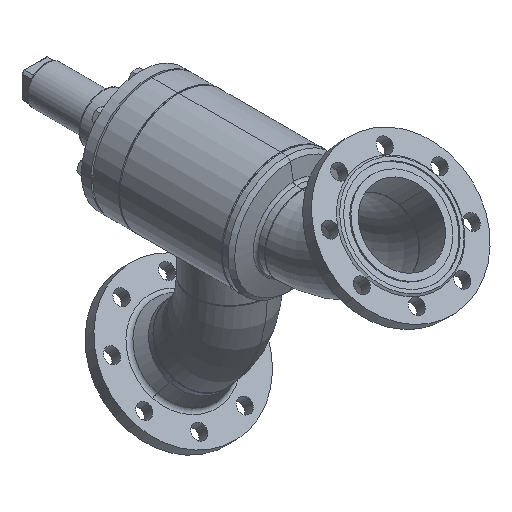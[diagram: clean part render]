
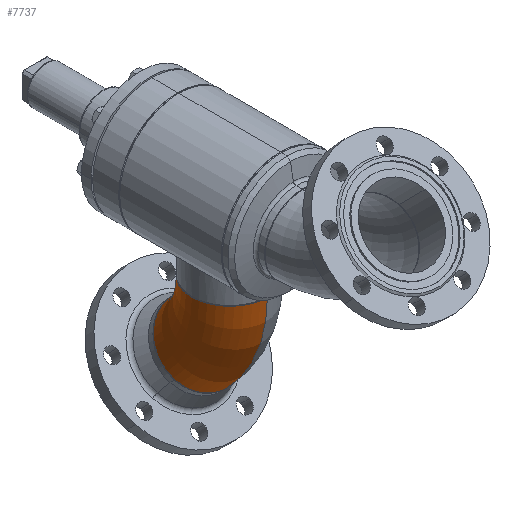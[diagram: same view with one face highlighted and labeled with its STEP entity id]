
A CAD part, isometric view. The second image highlights one B-rep face of the part: STEP entity #7737.
In plain terms, the highlighted toroidal (fillet/blend) face has major radius 190 mm and minor radius 69.85 mm.
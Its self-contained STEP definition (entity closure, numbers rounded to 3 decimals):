
#165 = CARTESIAN_POINT ( 'NONE',  ( 84.959, -105.041, 0. ) ) ;
#172 = VERTEX_POINT ( 'NONE', #10481 ) ;
#398 = EDGE_CURVE ( 'NONE', #1495, #172, #10627, .T. ) ;
#553 = CARTESIAN_POINT ( 'NONE',  ( 183.742, -6.258, 0. ) ) ;
#689 = CIRCLE ( 'NONE', #691, 69.85 ) ;
#691 = AXIS2_PLACEMENT_3D ( 'NONE', #692, #693, #694 ) ;
#692 = CARTESIAN_POINT ( 'NONE',  ( 134.35, -55.65, 0. ) ) ;
#693 = DIRECTION ( 'NONE',  ( 0.707, -0.707, 0. ) ) ;
#694 = DIRECTION ( 'NONE',  ( 0., 0., -1. ) ) ;
#762 = ORIENTED_EDGE ( 'NONE', *, *, #398, .T. ) ;
#1272 = VERTEX_POINT ( 'NONE', #165 ) ;
#1495 = VERTEX_POINT ( 'NONE', #553 ) ;
#1727 = EDGE_CURVE ( 'NONE', #1495, #1272, #689, .T. ) ;
#2053 = ORIENTED_EDGE ( 'NONE', *, *, #1727, .F. ) ;
#6459 = CIRCLE ( 'NONE', #6460, 120.15 ) ;
#6460 = AXIS2_PLACEMENT_3D ( 'NONE', #6461, #6462, #6463 ) ;
#6461 = CARTESIAN_POINT ( 'NONE',  ( 0., -190., 0. ) ) ;
#6462 = DIRECTION ( 'NONE',  ( 0., 0., 1. ) ) ;
#6463 = DIRECTION ( 'NONE',  ( 1., 0., 0. ) ) ;
#6529 = FACE_OUTER_BOUND ( 'NONE', #7535, .T. ) ;
#6530 = TOROIDAL_SURFACE ( 'NONE', #6531, 190., 69.85 ) ;
#6531 = AXIS2_PLACEMENT_3D ( 'NONE', #6532, #6533, #6534 ) ;
#6532 = CARTESIAN_POINT ( 'NONE',  ( 0., -190., 0. ) ) ;
#6533 = DIRECTION ( 'NONE',  ( 0., 0., 1. ) ) ;
#6534 = DIRECTION ( 'NONE',  ( 1., 0., 0. ) ) ;
#7535 = EDGE_LOOP ( 'NONE', ( #2053, #762, #10938, #10262 ) ) ;
#7692 = CARTESIAN_POINT ( 'NONE',  ( 0., -69.85, 0. ) ) ;
#7737 = ADVANCED_FACE ( 'NONE', ( #6529 ), #6530, .T. ) ;
#7827 = CIRCLE ( 'NONE', #7828, 69.85 ) ;
#7828 = AXIS2_PLACEMENT_3D ( 'NONE', #7829, #7830, #7832 ) ;
#7829 = CARTESIAN_POINT ( 'NONE',  ( 0., 0., 0. ) ) ;
#7830 = DIRECTION ( 'NONE',  ( 1., 0., 0. ) ) ;
#7832 = DIRECTION ( 'NONE',  ( 0., 0., -1. ) ) ;
#10210 = EDGE_CURVE ( 'NONE', #1272, #10351, #6459, .T. ) ;
#10262 = ORIENTED_EDGE ( 'NONE', *, *, #10210, .F. ) ;
#10351 = VERTEX_POINT ( 'NONE', #7692 ) ;
#10481 = CARTESIAN_POINT ( 'NONE',  ( 0., 69.85, 0. ) ) ;
#10568 = EDGE_CURVE ( 'NONE', #172, #10351, #7827, .T. ) ;
#10627 = CIRCLE ( 'NONE', #10628, 259.85 ) ;
#10628 = AXIS2_PLACEMENT_3D ( 'NONE', #10629, #10630, #10631 ) ;
#10629 = CARTESIAN_POINT ( 'NONE',  ( 0., -190., 0. ) ) ;
#10630 = DIRECTION ( 'NONE',  ( 0., 0., 1. ) ) ;
#10631 = DIRECTION ( 'NONE',  ( 1., 0., 0. ) ) ;
#10938 = ORIENTED_EDGE ( 'NONE', *, *, #10568, .T. ) ;
